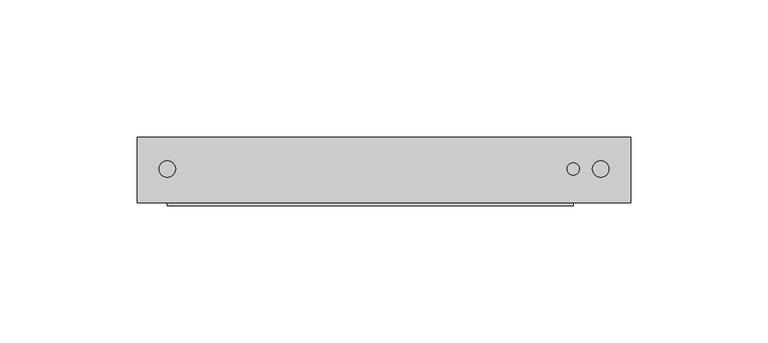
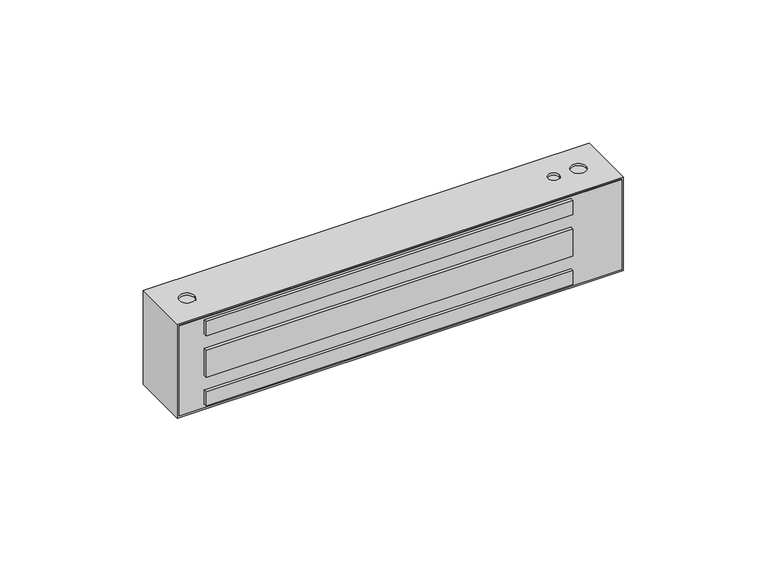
"""IFC4 building model written with IfcOpenShell, lengths in millimetres: proxy geometry, Электромагнитный_замок_ML-180KB_с_планкой_AccordTec_R19 : Электромагнитный_замок_ML-180KB_с_планкой_AccordTec_R19."""

from ifc_helpers import new_model, si_unit, frame, origin, place, context, project, spatial, polyline, circle_curve, outline, extrude, source, transform, mapped, element, save
from ifc_brep_helpers import plane_surface, revolved_surface, advanced_brep


def generic_models_49ed49ea(model_context):
    return source(origin(), model_context, "Body", "SolidModel", [
        extrude(outline(polyline([(159.0, -1.0), (11.0, -1.0), (11.0, 1.0), (159.0, 1.0), (159.0, -1.0)])), frame((0.0, 0.0, 32.0), z_axis=(0.0, 0.0, 1.0), x_axis=(1.0, 0.0, 0.0)), (0.0, 0.0, 1.0), 6.0),
        extrude(outline(polyline([(159.0, -1.0), (11.0, -1.0), (11.0, 1.0), (159.0, 1.0), (159.0, -1.0)])), frame((0.0, 0.0, 14.2), z_axis=(0.0, 0.0, 1.0), x_axis=(1.0, 0.0, 0.0)), (0.0, 0.0, 1.0), 11.6),
        extrude(outline(polyline([(159.0, -1.0), (11.0, -1.0), (11.0, 1.0), (159.0, 1.0), (159.0, -1.0)])), frame((0.0, 0.0, 2.0), z_axis=(0.0, 0.0, 1.0), x_axis=(1.0, 0.0, 0.0)), (0.0, 0.0, 1.0), 6.0),
        extrude(outline(polyline([(39.2, 0.8), (0.8, 0.8), (0.8, 179.2), (39.2, 179.2), (39.2, 0.8)]), holes=[polyline([(32.0, 11.0), (38.0, 11.0), (38.0, 159.0), (32.0, 159.0), (32.0, 11.0)]), polyline([(25.8, 11.0), (25.8, 159.0), (14.2, 159.0), (14.2, 11.0), (25.8, 11.0)]), polyline([(8.0, 11.0), (8.0, 159.0), (2.0, 159.0), (2.0, 11.0), (8.0, 11.0)])]), frame((0.0, 0.0, 0.0), z_axis=(0.0, 1.0, 0.0), x_axis=(0.0, 0.0, 1.0)), (0.0, 0.0, 1.0), 1.0),
        advanced_brep(
        [(180.0, 24.0, 40.0), (0.0, 24.0, 40.0), (0.0, 0.0, 40.0), (180.0, 0.0, 40.0), (8.0, 12.4, 40.0), (14.0, 12.4, 40.0), (156.75, 12.4, 40.0), (161.25, 12.4, 40.0), (166.0, 12.4, 40.0), (172.0, 12.4, 40.0), (180.0, 24.0, 0.0), (180.0, 0.0, 0.0), (0.0, 0.0, 0.0), (0.0, 24.0, 0.0), (163.5, 12.4, 0.0), (174.5, 12.4, 0.0), (5.5, 12.4, 0.0), (16.5, 12.4, 0.0), (0.8, 0.0, 39.2), (179.2, 0.0, 39.2), (179.2, 0.0, 0.8), (0.8, 0.0, 0.8), (179.2, 1.0, 39.2), (0.8, 1.0, 39.2), (0.8, 1.0, 0.8), (179.2, 1.0, 0.8), (8.0, 12.4, 39.0), (14.0, 12.4, 39.0), (156.75, 12.4, 39.0), (161.25, 12.4, 39.0), (166.0, 12.4, 39.0), (172.0, 12.4, 39.0), (163.5, 12.4, 1.0), (174.5, 12.4, 1.0), (5.5, 12.4, 1.0), (16.5, 12.4, 1.0)],
        [
            (0, 1),
            (1, 2),
            (2, 3),
            (3, 0),
            (4, 5, circle_curve(frame((11.0, 12.4, 40.0), z_axis=(0.0, 0.0, -1.0), x_axis=(1.0, 0.0, 0.0)), 3.0)),
            (5, 4, circle_curve(frame((11.0, 12.4, 40.0), z_axis=(0.0, 0.0, -1.0), x_axis=(1.0, 0.0, 0.0)), 3.0)),
            (6, 7, circle_curve(frame((159.0, 12.4, 40.0), z_axis=(0.0, 0.0, -1.0), x_axis=(1.0, 0.0, 0.0)), 2.25)),
            (7, 6, circle_curve(frame((159.0, 12.4, 40.0), z_axis=(0.0, 0.0, -1.0), x_axis=(1.0, 0.0, 0.0)), 2.25)),
            (8, 9, circle_curve(frame((169.0, 12.4, 40.0), z_axis=(0.0, 0.0, -1.0), x_axis=(1.0, 0.0, 0.0)), 3.0)),
            (9, 8, circle_curve(frame((169.0, 12.4, 40.0), z_axis=(0.0, 0.0, -1.0), x_axis=(1.0, 0.0, 0.0)), 3.0)),
            (10, 11),
            (11, 12),
            (12, 13),
            (13, 10),
            (14, 15, circle_curve(frame((169.0, 12.4, 0.0), z_axis=(0.0, 0.0, 1.0), x_axis=(1.0, 0.0, 0.0)), 5.5)),
            (15, 14, circle_curve(frame((169.0, 12.4, 0.0), z_axis=(0.0, 0.0, 1.0), x_axis=(1.0, 0.0, 0.0)), 5.5)),
            (16, 17, circle_curve(frame((11.0, 12.4, 0.0), z_axis=(0.0, 0.0, 1.0), x_axis=(1.0, 0.0, 0.0)), 5.5)),
            (17, 16, circle_curve(frame((11.0, 12.4, 0.0), z_axis=(0.0, 0.0, 1.0), x_axis=(1.0, 0.0, 0.0)), 5.5)),
            (0, 10),
            (13, 1),
            (12, 2),
            (11, 3),
            (18, 19),
            (19, 20),
            (20, 21),
            (21, 18),
            (22, 23),
            (23, 24),
            (24, 25),
            (25, 22),
            (22, 19),
            (18, 23),
            (21, 24),
            (20, 25),
            (26, 27, circle_curve(frame((11.0, 12.4, 39.0), z_axis=(0.0, 0.0, 1.0), x_axis=(1.0, 0.0, 0.0)), 3.0)),
            (27, 26, circle_curve(frame((11.0, 12.4, 39.0), z_axis=(0.0, 0.0, 1.0), x_axis=(1.0, 0.0, 0.0)), 3.0)),
            (28, 29, circle_curve(frame((159.0, 12.4, 39.0), z_axis=(0.0, 0.0, 1.0), x_axis=(1.0, 0.0, 0.0)), 2.25)),
            (29, 28, circle_curve(frame((159.0, 12.4, 39.0), z_axis=(0.0, 0.0, 1.0), x_axis=(1.0, 0.0, 0.0)), 2.25)),
            (30, 31, circle_curve(frame((169.0, 12.4, 39.0), z_axis=(0.0, 0.0, 1.0), x_axis=(1.0, 0.0, 0.0)), 3.0)),
            (31, 30, circle_curve(frame((169.0, 12.4, 39.0), z_axis=(0.0, 0.0, 1.0), x_axis=(1.0, 0.0, 0.0)), 3.0)),
            (27, 5),
            (4, 26),
            (29, 7),
            (6, 28),
            (31, 9),
            (8, 30),
            (32, 33, circle_curve(frame((169.0, 12.4, 1.0), z_axis=(0.0, 0.0, -1.0), x_axis=(1.0, 0.0, 0.0)), 5.5)),
            (33, 32, circle_curve(frame((169.0, 12.4, 1.0), z_axis=(0.0, 0.0, -1.0), x_axis=(1.0, 0.0, 0.0)), 5.5)),
            (34, 35, circle_curve(frame((11.0, 12.4, 1.0), z_axis=(0.0, 0.0, -1.0), x_axis=(1.0, 0.0, 0.0)), 5.5)),
            (35, 34, circle_curve(frame((11.0, 12.4, 1.0), z_axis=(0.0, 0.0, -1.0), x_axis=(1.0, 0.0, 0.0)), 5.5)),
            (33, 15),
            (14, 32),
            (35, 17),
            (16, 34),
        ],
        [
            plane_surface(frame((0.0, 24.0, 40.0), z_axis=(0.0, 0.0, 1.0), x_axis=(-1.0, 0.0, 0.0))),
            plane_surface(frame((0.0, 24.0, 0.0), z_axis=(0.0, 0.0, -1.0), x_axis=(1.0, 0.0, 0.0))),
            plane_surface(frame((180.0, 24.0, 40.0), z_axis=(0.0, 1.0, 0.0), x_axis=(0.0, 0.0, -1.0))),
            plane_surface(frame((0.0, 24.0, 40.0), z_axis=(-1.0, 0.0, 0.0), x_axis=(0.0, 0.0, -1.0))),
            plane_surface(frame((0.0, 0.0, 40.0), z_axis=(0.0, -1.0, 0.0), x_axis=(0.0, 0.0, -1.0))),
            plane_surface(frame((180.0, 0.0, 40.0), z_axis=(1.0, 0.0, 0.0), x_axis=(0.0, 0.0, -1.0))),
            plane_surface(frame((0.8, 1.0, 39.2), z_axis=(0.0, -1.0, 0.0), x_axis=(1.0, 0.0, 0.0))),
            plane_surface(frame((179.2, 0.0, 39.2), z_axis=(0.0, 0.0, -1.0), x_axis=(0.0, 1.0, 0.0))),
            plane_surface(frame((0.8, 0.0, 39.2), z_axis=(1.0, 0.0, 0.0), x_axis=(0.0, 1.0, 0.0))),
            plane_surface(frame((0.8, 0.0, 0.8), z_axis=(0.0, 0.0, 1.0), x_axis=(0.0, 1.0, 0.0))),
            plane_surface(frame((179.2, 0.0, 0.8), z_axis=(-1.0, 0.0, 0.0), x_axis=(0.0, 1.0, 0.0))),
            plane_surface(frame((14.0, 12.4, 39.0), z_axis=(0.0, 0.0, 1.0), x_axis=(0.0, -1.0, 0.0))),
            revolved_surface(polyline([(14.0, 12.4, 39.0), (14.0, 12.4, 40.0)]), (11.0, 12.4, 41.0), (0.0, 0.0, -1.0)),
            revolved_surface(polyline([(161.25, 12.4, 39.0), (161.25, 12.4, 40.0)]), (159.0, 12.4, 40.0), (0.0, 0.0, -1.0)),
            revolved_surface(polyline([(172.0, 12.4, 39.0), (172.0, 12.4, 40.0)]), (169.0, 12.4, 40.0), (0.0, 0.0, -1.0)),
            plane_surface(frame((174.5, 12.4, 1.0), z_axis=(0.0, 0.0, -1.0), x_axis=(0.0, 1.0, 0.0))),
            revolved_surface(polyline([(174.5, 12.4, 1.0), (174.5, 12.4, 0.0)]), (169.0, 12.4, -1.0), (0.0, 0.0, 1.0)),
            revolved_surface(polyline([(16.5, 12.4, 1.0), (16.5, 12.4, 0.0)]), (11.0, 12.4, 0.0), (0.0, 0.0, 1.0)),
        ],
        [
            (0, [[1, 2, 3, 4], [5, 6], [7, 8], [9, 10]]),
            (1, [[11, 12, 13, 14], [15, 16], [17, 18]]),
            (2, [[-1, 19, -14, 20]]),
            (3, [[-2, -20, -13, 21]]),
            (4, [[-3, -21, -12, 22], [23, 24, 25, 26]]),
            (5, [[-4, -22, -11, -19]]),
            (6, [[27, 28, 29, 30]]),
            (7, [[-27, 31, -23, 32]]),
            (8, [[-28, -32, -26, 33]]),
            (9, [[-29, -33, -25, 34]]),
            (10, [[-30, -34, -24, -31]]),
            (11, [[35, 36]]),
            (11, [[37, 38]]),
            (11, [[39, 40]]),
            (12, [[-36, 41, -5, 42]]),
            (12, [[-35, -42, -6, -41]]),
            (13, [[-38, 43, -7, 44]]),
            (13, [[-37, -44, -8, -43]]),
            (14, [[-40, 45, -9, 46]]),
            (14, [[-39, -46, -10, -45]]),
            (15, [[47, 48]]),
            (15, [[49, 50]]),
            (16, [[-48, 51, -15, 52]]),
            (16, [[-47, -52, -16, -51]]),
            (17, [[-50, 53, -17, 54]]),
            (17, [[-49, -54, -18, -53]]),
        ],
    ),
    ])


if __name__ == "__main__":
    model = new_model("IFC4")
    model_context = context("Model", 3, world=origin())
    ifc_project = project(units=[si_unit("LENGTHUNIT", "METRE", prefix="MILLI")], contexts=[model_context])
    site = spatial("IfcSite", under=ifc_project)
    building = spatial("IfcBuilding", under=site)
    placement = place(None, origin())
    generic_models_shape = generic_models_49ed49ea(model_context)
    element("IfcBuildingElementProxy", 1, Name="Электромагнитный_замок_ML-180KB_с_планкой_AccordTec_R19 : Электромагнитный_замок_ML-180KB_с_планкой_AccordTec_R19", ObjectType="Электромагнитный_замок_ML-180KB_с_планкой_AccordTec_R19 : Электромагнитный_замок_ML-180KB_с_планкой_AccordTec_R19", at=placement, inside=building, context=model_context, shape_type="MappedRepresentation", body=[
        mapped(generic_models_shape, transform((0.0, 0.0, 0.0), x_axis=(1.0, 0.0, 0.0), y_axis=(0.0, 1.0, 0.0), z_axis=(0.0, 0.0, 1.0))),
    ])
    save(model, "model.ifc")
